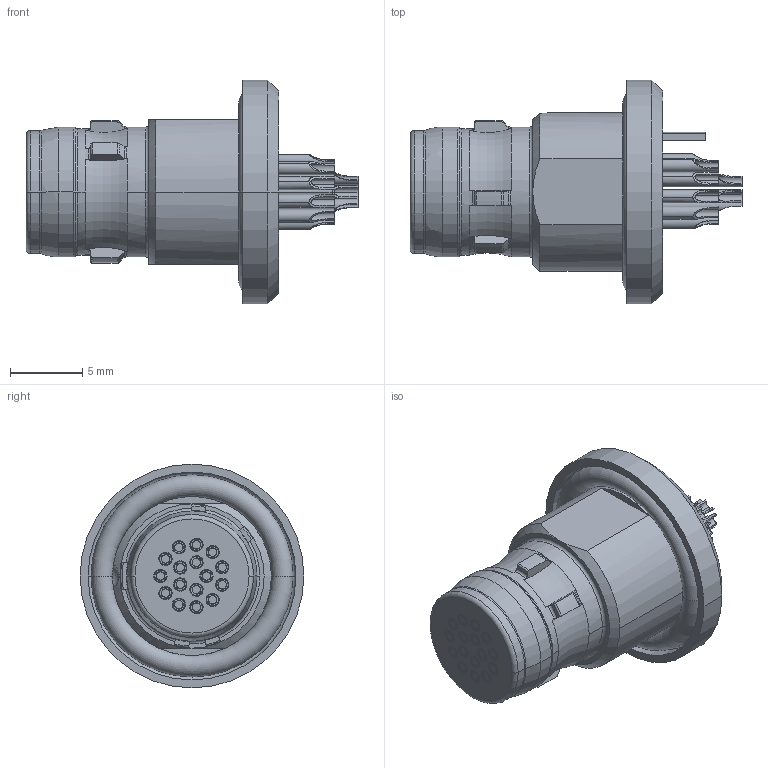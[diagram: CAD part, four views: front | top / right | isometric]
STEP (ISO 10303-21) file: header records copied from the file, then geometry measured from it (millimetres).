
FILE_DESCRIPTION((''),'2;1');
FILE_NAME('GW1Y_R-P16WDD0-R00L-A_WITHOUT-H','2020-10-27T08:16:23',('EUnterhaslberger'),(''),'CREO PARAMETRIC BY PTC INC, 2018300','CREO PARAMETRIC BY PTC INC, 2018300','');
FILE_SCHEMA(('AP242_MANAGED_MODEL_BASED_3D_ENGINEERING_MIM_LF { 1 0 10303 442 1 1 4 }'));
Length unit declared in the file: millimetre
Products named in the file (1): GW1Y_R-P16WDD0-R00L-A_WITHOUT-H
Bounding box: 23 x 15.5 x 15.5 mm (x, y, z)
Volume: 1572.5 mm3; surface area: 2300.9 mm2
Topology: 2 solids, 36 shells, 690 faces, 1703 edges, 1101 vertices
Faces by surface type: cylinder 289, plane 204, cone 113, torus 81, bspline 2, sphere 1
Entity records: 26187 total; most frequent: CARTESIAN_POINT 4770, DIRECTION 3804, ORIENTED_EDGE 3340, EDGE_CURVE 1670, AXIS2_PLACEMENT_3D 1592, VERTEX_POINT 1101, CIRCLE 904, EDGE_LOOP 813
